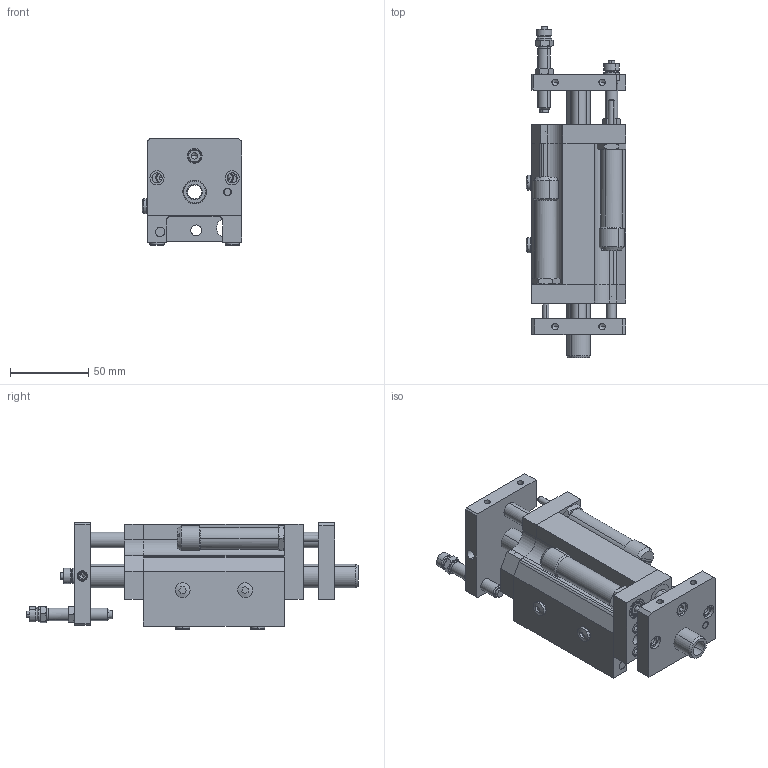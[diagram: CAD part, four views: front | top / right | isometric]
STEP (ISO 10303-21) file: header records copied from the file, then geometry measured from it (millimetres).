
FILE_DESCRIPTION((''),'2;1');
FILE_NAME('V:\CAD\Inventor-Stp\Linearelemente\Kugelbüchsenführungen\VE 25\1000033\1000033.stp','2006-03-14T09:32:50',('is'),(''),'Autodesk Inventor 8','Autodesk Inventor 8','');
FILE_SCHEMA(('AUTOMOTIVE_DESIGN { 1 0 10303 214 1 1 1 1 }'));
Length unit declared in the file: millimetre
Products named in the file (3): 1000033; 1000033-a; 1000033-b
Assembly tree (2 placements, depth 2):
  1000033
    1000033-a
    1000033-b
Bounding box: 63.82 x 212 x 68 mm (x, y, z)
Volume: 326321.3 mm3; surface area: 121377.4 mm2
Topology: 2 solids, 53 shells, 1255 faces, 3005 edges, 1903 vertices
Faces by surface type: plane 360, bspline 345, cylinder 282, cone 222, torus 44, sphere 2
Entity records: 42404 total; most frequent: CARTESIAN_POINT 13941, DIRECTION 6020, ORIENTED_EDGE 5874, EDGE_CURVE 2937, AXIS2_PLACEMENT_3D 2428, VERTEX_POINT 1903, CIRCLE 1513, EDGE_LOOP 1496
